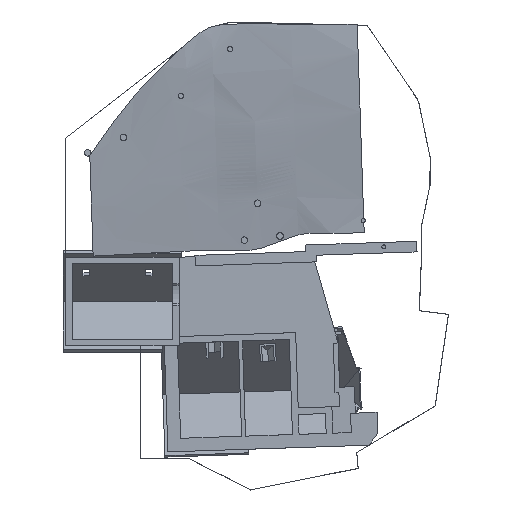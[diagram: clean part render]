
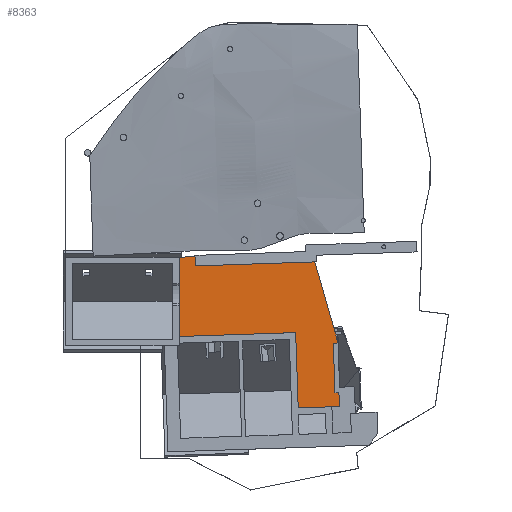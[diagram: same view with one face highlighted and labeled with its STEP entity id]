
A CAD part, front view. The second image highlights one B-rep face of the part: STEP entity #8363.
In plain terms, the highlighted planar face has unit normal (0, -1, 0).
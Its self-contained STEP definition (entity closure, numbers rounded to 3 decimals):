
#158 = EDGE_CURVE ( 'NONE', #658, #14734, #9747, .T. ) ;
#249 = VECTOR ( 'NONE', #1468, 1000. ) ;
#580 = VECTOR ( 'NONE', #13772, 1000. ) ;
#658 = VERTEX_POINT ( 'NONE', #7316 ) ;
#1033 = DIRECTION ( 'NONE',  ( 0.033, 0., -0.999 ) ) ;
#1178 = VERTEX_POINT ( 'NONE', #5000 ) ;
#1252 = AXIS2_PLACEMENT_3D ( 'NONE', #8855, #7901, #5508 ) ;
#1369 = ORIENTED_EDGE ( 'NONE', *, *, #4359, .T. ) ;
#1468 = DIRECTION ( 'NONE',  ( -0.033, 0., 0.999 ) ) ;
#1610 = DIRECTION ( 'NONE',  ( -0.999, 0., -0.033 ) ) ;
#1667 = VERTEX_POINT ( 'NONE', #7584 ) ;
#1670 = CARTESIAN_POINT ( 'NONE',  ( 11715.059, -50., 995.2 ) ) ;
#1745 = VECTOR ( 'NONE', #1610, 1000. ) ;
#1845 = LINE ( 'NONE', #2138, #580 ) ;
#2013 = LINE ( 'NONE', #10432, #7483 ) ;
#2117 = CARTESIAN_POINT ( 'NONE',  ( 4099.328, -50., 6740.163 ) ) ;
#2130 = EDGE_LOOP ( 'NONE', ( #11413, #5557, #1369, #2157, #8147, #10392, #11574, #3212, #5202, #3471, #3366, #12019 ) ) ;
#2138 = CARTESIAN_POINT ( 'NONE',  ( 14563.601, -50., 190.088 ) ) ;
#2157 = ORIENTED_EDGE ( 'NONE', *, *, #2437, .T. ) ;
#2165 = EDGE_CURVE ( 'NONE', #10443, #5277, #4924, .T. ) ;
#2433 = DIRECTION ( 'NONE',  ( 0.999, 0., 0.033 ) ) ;
#2437 = EDGE_CURVE ( 'NONE', #1178, #9260, #2013, .T. ) ;
#2457 = LINE ( 'NONE', #7219, #2477 ) ;
#2477 = VECTOR ( 'NONE', #14477, 1000. ) ;
#2753 = DIRECTION ( 'NONE',  ( 0.999, 0., 0.033 ) ) ;
#2755 = VECTOR ( 'NONE', #2433, 1000. ) ;
#2971 = VERTEX_POINT ( 'NONE', #8223 ) ;
#3212 = ORIENTED_EDGE ( 'NONE', *, *, #12848, .T. ) ;
#3366 = ORIENTED_EDGE ( 'NONE', *, *, #13409, .F. ) ;
#3471 = ORIENTED_EDGE ( 'NONE', *, *, #8658, .F. ) ;
#3748 = DIRECTION ( 'NONE',  ( 0., 0., 1. ) ) ;
#3769 = VERTEX_POINT ( 'NONE', #10123 ) ;
#3782 = LINE ( 'NONE', #14601, #10452 ) ;
#3785 = CARTESIAN_POINT ( 'NONE',  ( 4116.062, -50., 6240.443 ) ) ;
#3791 = VECTOR ( 'NONE', #4471, 1000. ) ;
#4238 = VERTEX_POINT ( 'NONE', #5363 ) ;
#4359 = EDGE_CURVE ( 'NONE', #12049, #1178, #14772, .T. ) ;
#4471 = DIRECTION ( 'NONE',  ( -0.033, 0., 0.999 ) ) ;
#4924 = LINE ( 'NONE', #9654, #249 ) ;
#5000 = CARTESIAN_POINT ( 'NONE',  ( 11905.834, -50., -4701.607 ) ) ;
#5202 = ORIENTED_EDGE ( 'NONE', *, *, #158, .T. ) ;
#5277 = VERTEX_POINT ( 'NONE', #12110 ) ;
#5363 = CARTESIAN_POINT ( 'NONE',  ( 14988.608, -50., -3537.776 ) ) ;
#5508 = DIRECTION ( 'NONE',  ( 0., 0., 1. ) ) ;
#5557 = ORIENTED_EDGE ( 'NONE', *, *, #13900, .T. ) ;
#5641 = EDGE_CURVE ( 'NONE', #9260, #4238, #10248, .T. ) ;
#5827 = VECTOR ( 'NONE', #1033, 1000. ) ;
#5861 = VERTEX_POINT ( 'NONE', #11152 ) ;
#6245 = LINE ( 'NONE', #9651, #14690 ) ;
#6379 = FACE_OUTER_BOUND ( 'NONE', #2130, .T. ) ;
#7219 = CARTESIAN_POINT ( 'NONE',  ( 2900., -50., 700. ) ) ;
#7246 = CARTESIAN_POINT ( 'NONE',  ( 14688.777, -50., -3547.817 ) ) ;
#7316 = CARTESIAN_POINT ( 'NONE',  ( 14923.399, -50., 202.137 ) ) ;
#7324 = EDGE_CURVE ( 'NONE', #5861, #2971, #3782, .T. ) ;
#7483 = VECTOR ( 'NONE', #10596, 1000. ) ;
#7541 = CARTESIAN_POINT ( 'NONE',  ( 14988.608, -50., -3537.776 ) ) ;
#7584 = CARTESIAN_POINT ( 'NONE',  ( 4116.062, -50., 6240.443 ) ) ;
#7901 = DIRECTION ( 'NONE',  ( 0., 1., 0. ) ) ;
#7942 = CARTESIAN_POINT ( 'NONE',  ( 13111.02, -50., 6541.668 ) ) ;
#8147 = ORIENTED_EDGE ( 'NONE', *, *, #5641, .T. ) ;
#8223 = CARTESIAN_POINT ( 'NONE',  ( 4099.328, -50., 6740.163 ) ) ;
#8251 = VECTOR ( 'NONE', #13536, 1000. ) ;
#8277 = EDGE_CURVE ( 'NONE', #4238, #10443, #13294, .T. ) ;
#8363 = ADVANCED_FACE ( 'NONE', ( #6379 ), #14847, .F. ) ;
#8424 = LINE ( 'NONE', #2117, #5827 ) ;
#8584 = DIRECTION ( 'NONE',  ( -0.275, 0., 0.961 ) ) ;
#8658 = EDGE_CURVE ( 'NONE', #1667, #14734, #14299, .T. ) ;
#8855 = CARTESIAN_POINT ( 'NONE',  ( 0., -50., 0. ) ) ;
#9206 = CARTESIAN_POINT ( 'NONE',  ( 11715.059, -50., 995.2 ) ) ;
#9260 = VERTEX_POINT ( 'NONE', #10810 ) ;
#9651 = CARTESIAN_POINT ( 'NONE',  ( 2900., -50., 700. ) ) ;
#9654 = CARTESIAN_POINT ( 'NONE',  ( 14688.777, -50., -3547.817 ) ) ;
#9747 = LINE ( 'NONE', #14507, #12693 ) ;
#10123 = CARTESIAN_POINT ( 'NONE',  ( 2900., -50., 700. ) ) ;
#10248 = LINE ( 'NONE', #14996, #3791 ) ;
#10392 = ORIENTED_EDGE ( 'NONE', *, *, #8277, .T. ) ;
#10432 = CARTESIAN_POINT ( 'NONE',  ( 11905.834, -50., -4701.607 ) ) ;
#10443 = VERTEX_POINT ( 'NONE', #7246 ) ;
#10452 = VECTOR ( 'NONE', #2753, 1000. ) ;
#10596 = DIRECTION ( 'NONE',  ( 0.999, 0., 0.033 ) ) ;
#10810 = CARTESIAN_POINT ( 'NONE',  ( 15024.086, -50., -4597.182 ) ) ;
#11152 = CARTESIAN_POINT ( 'NONE',  ( 2900., -50., 6700. ) ) ;
#11413 = ORIENTED_EDGE ( 'NONE', *, *, #14835, .F. ) ;
#11574 = ORIENTED_EDGE ( 'NONE', *, *, #2165, .T. ) ;
#12019 = ORIENTED_EDGE ( 'NONE', *, *, #7324, .F. ) ;
#12049 = VERTEX_POINT ( 'NONE', #9206 ) ;
#12110 = CARTESIAN_POINT ( 'NONE',  ( 14563.601, -50., 190.088 ) ) ;
#12693 = VECTOR ( 'NONE', #8584, 1000. ) ;
#12848 = EDGE_CURVE ( 'NONE', #5277, #658, #1845, .T. ) ;
#13294 = LINE ( 'NONE', #7541, #1745 ) ;
#13409 = EDGE_CURVE ( 'NONE', #2971, #1667, #8424, .T. ) ;
#13536 = DIRECTION ( 'NONE',  ( 0.033, 0., -0.999 ) ) ;
#13772 = DIRECTION ( 'NONE',  ( 0.999, 0., 0.033 ) ) ;
#13900 = EDGE_CURVE ( 'NONE', #3769, #12049, #2457, .T. ) ;
#14299 = LINE ( 'NONE', #3785, #2755 ) ;
#14477 = DIRECTION ( 'NONE',  ( 0.999, 0., 0.033 ) ) ;
#14507 = CARTESIAN_POINT ( 'NONE',  ( 14923.399, -50., 202.137 ) ) ;
#14601 = CARTESIAN_POINT ( 'NONE',  ( 2900., -50., 6700. ) ) ;
#14690 = VECTOR ( 'NONE', #3748, 1000. ) ;
#14734 = VERTEX_POINT ( 'NONE', #7942 ) ;
#14772 = LINE ( 'NONE', #1670, #8251 ) ;
#14835 = EDGE_CURVE ( 'NONE', #3769, #5861, #6245, .T. ) ;
#14847 = PLANE ( 'NONE',  #1252 ) ;
#14996 = CARTESIAN_POINT ( 'NONE',  ( 15024.086, -50., -4597.182 ) ) ;
